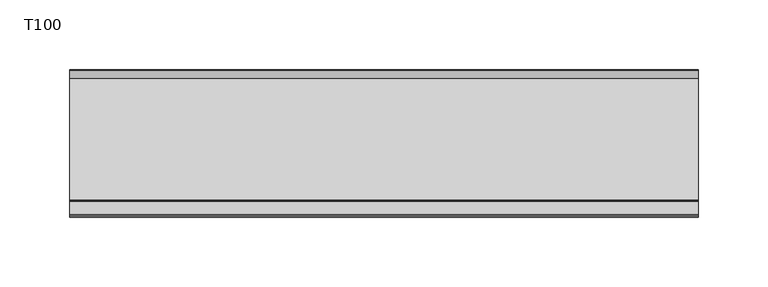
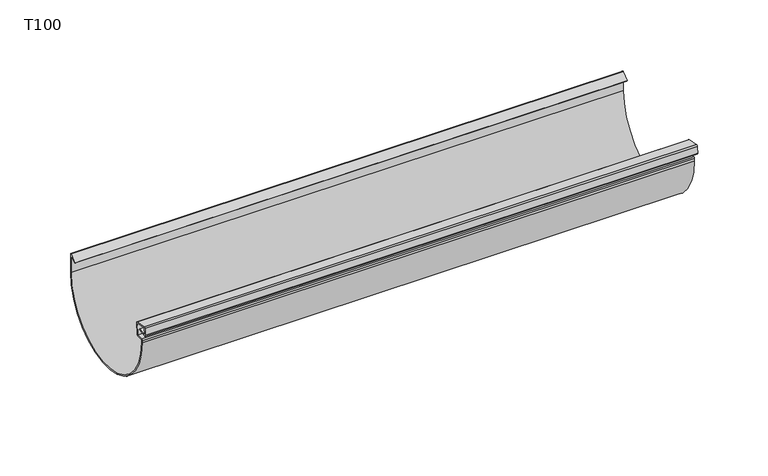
"""IFC4 building model written with IfcOpenShell, lengths in millimetres: proxy geometry, GROVIK_Gutter_Straight : T100."""

from ifc_helpers import new_model, si_unit, point, frame, frame_2d, origin, place, context, project, spatial, polyline, circle_curve, trimmed, segment, composite_curve, outline, extrude, source, transform, mapped, element, save


def t100_1b8f7a4c(model_context):
    return source(origin(), model_context, "Body", "SweptSolid", [
        extrude(outline(composite_curve([segment(polyline([(95.6785725, -12.9222473), (100.8871557, -13.3779392)]), True, "CONTINUOUS"), segment(trimmed(circle_curve(frame_2d((100.8, -14.3741339)), 1.0), [point((100.8871557, -13.3779392))], [point((101.8, -14.3741339))], False, "CARTESIAN"), True, "CONTINUOUS"), segment(polyline([(101.8, -14.3741339), (101.8, -16.3578028)]), True, "CONTINUOUS"), segment(trimmed(circle_curve(frame_2d((50.9, -16.3578028)), 50.9), [point((101.8, -16.3578028))], [point((0.0, -16.3578028))], False, "CARTESIAN"), True, "CONTINUOUS"), segment(polyline([(0.0, -16.3578028), (0.0, -0.5)]), True, "CONTINUOUS"), segment(trimmed(circle_curve(frame_2d((0.5, -0.5)), 0.5), [point((0.0, -0.5))], [point((0.8213938, -0.1169778))], False, "CARTESIAN"), True, "CONTINUOUS"), segment(polyline([(0.8213938, -0.1169778), (6.2279844, -4.6536459), (5.6494755, -5.343086), (0.9, -1.3578028), (0.9, -16.3578028)]), True, "CONTINUOUS"), segment(trimmed(circle_curve(frame_2d((50.9, -16.3578028)), 50.0), [point((0.9, -16.3578028))], [point((100.9, -16.3578028))], True, "CARTESIAN"), True, "CONTINUOUS"), segment(polyline([(100.9, -16.3578028), (100.9, -14.2825008), (95.683723, -13.8261357)]), True, "CONTINUOUS"), segment(trimmed(circle_curve(frame_2d((95.683723, -12.9170968)), 0.909039), [point((95.683723, -13.8261357))], [point((94.7746841, -12.9170968))], False, "CARTESIAN"), True, "CONTINUOUS"), segment(polyline([(94.7746841, -12.9170968), (93.9345391, -3.3141955)]), True, "CONTINUOUS"), segment(trimmed(circle_curve(frame_2d((94.9307338, -3.2270397)), 1.0), [point((93.9345391, -3.3141955))], [point((94.7570856, -2.242232))], False, "CARTESIAN"), True, "CONTINUOUS"), segment(polyline([(94.7570856, -2.242232), (104.6051631, -0.5057502)]), True, "CONTINUOUS"), segment(trimmed(circle_curve(frame_2d((104.6923189, -1.5019449)), 1.0), [point((104.6051631, -0.5057502))], [point((105.6885136, -1.4147892))], False, "CARTESIAN"), True, "CONTINUOUS"), segment(polyline([(105.6885136, -1.4147892), (106.1850202, -7.0898858)]), True, "CONTINUOUS"), segment(trimmed(circle_curve(frame_2d((105.1888255, -7.1770416)), 1.0), [point((106.1850202, -7.0898858))], [point((105.0151773, -8.1618494))], False, "CARTESIAN"), True, "CONTINUOUS"), segment(polyline([(105.0151773, -8.1618494), (98.1850202, -6.9575084), (98.3413035, -6.0711813), (105.2998033, -7.2981526), (104.7816977, -1.3761787), (94.8220658, -3.1323306), (95.6785725, -12.9222473)]), True, "CONTINUOUS")], self_intersect=False)), frame((453.392283, 0.0, -0.4523923), z_axis=(-0.9999995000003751, 0.0, 0.0009999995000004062), x_axis=(0.0, -1.0, 0.0)), (0.0, 0.0, 1.0), 452.3925092),
    ])


if __name__ == "__main__":
    model = new_model("IFC4")
    model_context = context("Model", 3, world=origin())
    ifc_project = project(units=[si_unit("LENGTHUNIT", "METRE", prefix="MILLI")], contexts=[model_context])
    site = spatial("IfcSite", under=ifc_project)
    building = spatial("IfcBuilding", under=site)
    placement = place(None, origin())
    t100_shape = t100_1b8f7a4c(model_context)
    element("IfcBuildingElementProxy", 1, Name="GROVIK_Gutter_Straight : T100", ObjectType="GROVIK_Gutter_Straight : T100", at=placement, inside=building, context=model_context, shape_type="MappedRepresentation", body=[
        mapped(t100_shape, transform((0.0, 0.0, 0.0), x_axis=(1.0, 0.0, 0.0), y_axis=(0.0, 1.0, 0.0), z_axis=(0.0, 0.0, 1.0))),
    ])
    save(model, "model.ifc")
